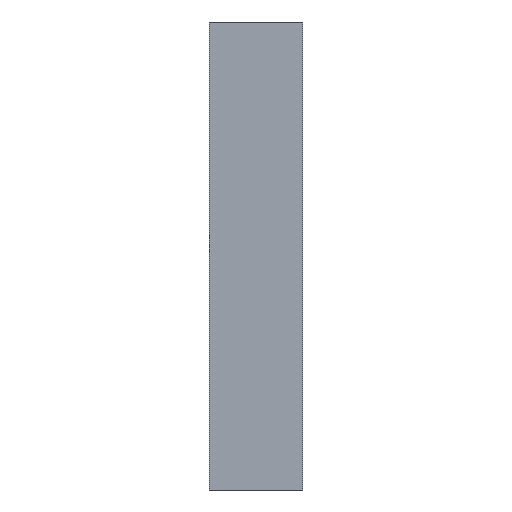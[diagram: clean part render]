
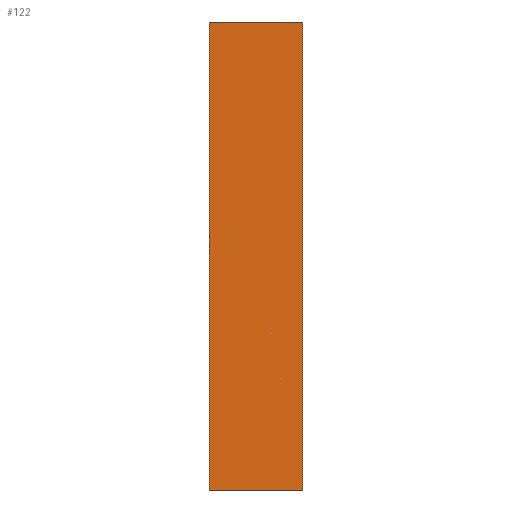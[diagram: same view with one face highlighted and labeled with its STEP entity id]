
A CAD part, front view. The second image highlights one B-rep face of the part: STEP entity #122.
In plain terms, the highlighted planar face has unit normal (0, -1, 0).
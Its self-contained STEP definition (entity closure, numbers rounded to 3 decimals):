
#70=CARTESIAN_POINT('Vertex',(-20.,-209.55,-42.55)) ;
#73=CARTESIAN_POINT('Line Origine',(-20.,-209.55,-12.55)) ;
#77=CARTESIAN_POINT('Vertex',(-20.,-209.55,17.45)) ;
#92=CARTESIAN_POINT('Axis2P3D Location',(-8.,-209.55,-42.55)) ;
#97=CARTESIAN_POINT('Line Origine',(-14.,-209.55,-42.55)) ;
#101=CARTESIAN_POINT('Vertex',(-8.,-209.55,-42.55)) ;
#104=CARTESIAN_POINT('Line Origine',(-8.,-209.55,-12.55)) ;
#108=CARTESIAN_POINT('Vertex',(-8.,-209.55,17.45)) ;
#111=CARTESIAN_POINT('Line Origine',(-14.,-209.55,17.45)) ;
#74=DIRECTION('Vector Direction',(0.,0.,1.)) ;
#93=DIRECTION('Axis2P3D Direction',(0.,1.,0.)) ;
#94=DIRECTION('Axis2P3D XDirection',(-1.,0.,0.)) ;
#98=DIRECTION('Vector Direction',(-1.,0.,0.)) ;
#105=DIRECTION('Vector Direction',(0.,0.,1.)) ;
#112=DIRECTION('Vector Direction',(-1.,0.,0.)) ;
#95=AXIS2_PLACEMENT_3D('Plane Axis2P3D',#92,#93,#94) ;
#117=ORIENTED_EDGE('',*,*,#79,.F.) ;
#118=ORIENTED_EDGE('',*,*,#103,.T.) ;
#119=ORIENTED_EDGE('',*,*,#110,.T.) ;
#120=ORIENTED_EDGE('',*,*,#115,.F.) ;
#75=VECTOR('Line Direction',#74,1.) ;
#99=VECTOR('Line Direction',#98,1.) ;
#106=VECTOR('Line Direction',#105,1.) ;
#113=VECTOR('Line Direction',#112,1.) ;
#122=ADVANCED_FACE('Hauptk\X2\00F6\X0\rper',(#121),#96,.F.) ;
#79=EDGE_CURVE('',#71,#78,#76,.T.) ;
#103=EDGE_CURVE('',#71,#102,#100,.F.) ;
#110=EDGE_CURVE('',#102,#109,#107,.T.) ;
#115=EDGE_CURVE('',#78,#109,#114,.F.) ;
#116=EDGE_LOOP('',(#117,#118,#119,#120)) ;
#121=FACE_OUTER_BOUND('',#116,.T.) ;
#76=LINE('Line',#73,#75) ;
#100=LINE('Line',#97,#99) ;
#107=LINE('Line',#104,#106) ;
#114=LINE('Line',#111,#113) ;
#96=PLANE('',#95) ;
#71=VERTEX_POINT('',#70) ;
#78=VERTEX_POINT('',#77) ;
#102=VERTEX_POINT('',#101) ;
#109=VERTEX_POINT('',#108) ;
